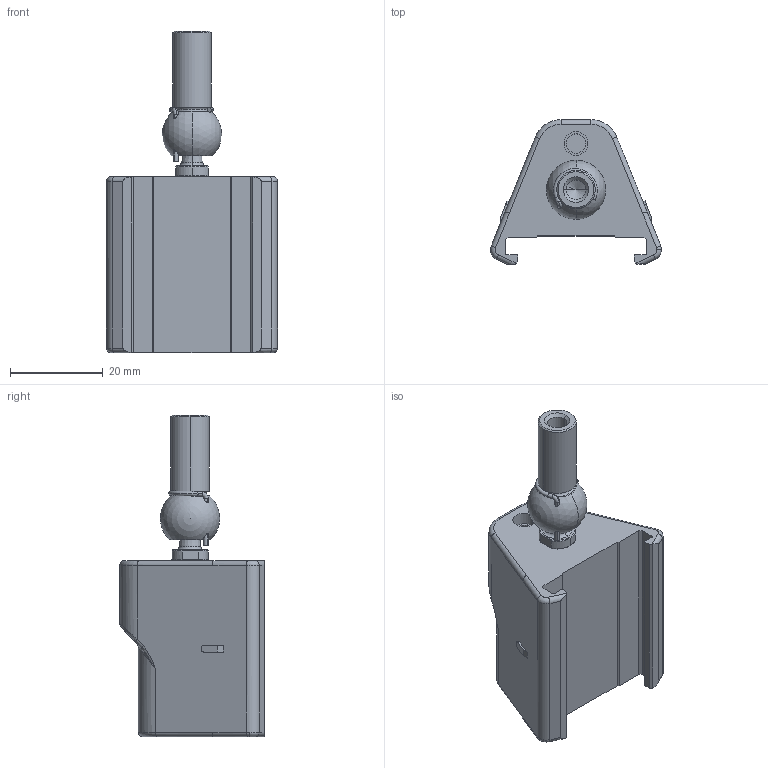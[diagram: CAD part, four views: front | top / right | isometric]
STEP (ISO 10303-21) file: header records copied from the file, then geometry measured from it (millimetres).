
FILE_DESCRIPTION (( 'STEP AP203' ), '1' );
FILE_NAME ('PCUR210.STEP', '2019-05-08T07:29:32', ( '' ), ( '' ), 'SwSTEP 2.0', 'SolidWorks 2019', '' );
FILE_SCHEMA (( 'CONFIG_CONTROL_DESIGN' ));
Length unit declared in the file: millimetre
Products named in the file (1): PCUR210
Bounding box: 36.91 x 31.15 x 69.38 mm (x, y, z)
Volume: 23766.7 mm3; surface area: 9393.7 mm2
Topology: 5 solids, 6 shells, 191 faces, 467 edges, 290 vertices
Faces by surface type: plane 65, cylinder 58, torus 40, cone 12, bspline 10, sphere 6
Entity records: 6149 total; most frequent: CARTESIAN_POINT 1667, DIRECTION 963, ORIENTED_EDGE 904, EDGE_CURVE 452, AXIS2_PLACEMENT_3D 388, VERTEX_POINT 283, CIRCLE 206, EDGE_LOOP 205
